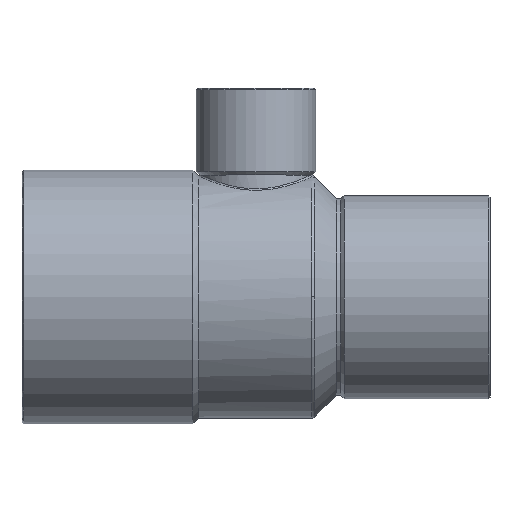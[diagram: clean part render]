
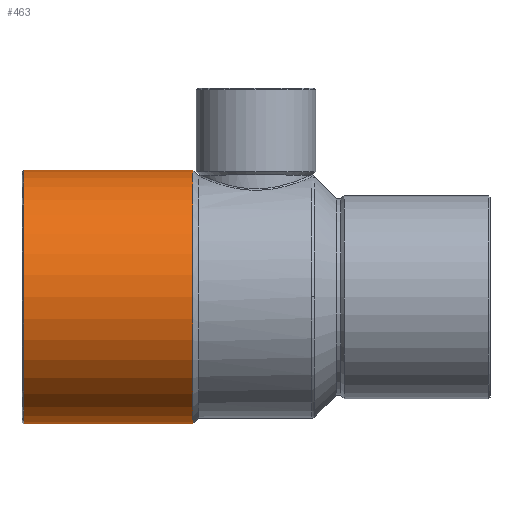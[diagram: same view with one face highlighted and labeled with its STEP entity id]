
A CAD part, top view. The second image highlights one B-rep face of the part: STEP entity #463.
In plain terms, the highlighted cylindrical face has radius 15.175 mm (diameter 30.35 mm), a partial arc.
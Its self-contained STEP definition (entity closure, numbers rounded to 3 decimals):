
#378=CARTESIAN_POINT('',(-7.52,15.175,0.0));
#379=VERTEX_POINT('',#378);
#388=CARTESIAN_POINT('',(-7.52,-15.175,0.));
#389=VERTEX_POINT('',#388);
#390=CARTESIAN_POINT('',(-7.52,0.0,0.0));
#391=DIRECTION('',(1.0,0.0,0.0));
#392=DIRECTION('',(0.0,1.0,0.0));
#393=AXIS2_PLACEMENT_3D('',#390,#391,#392);
#394=CIRCLE('',#393,15.175);
#395=EDGE_CURVE('',#379,#389,#394,.T.);
#432=CARTESIAN_POINT('',(-17.747,0.0,0.0));
#433=DIRECTION('',(1.0,0.0,0.0));
#434=DIRECTION('',(0.0,1.0,0.0));
#435=AXIS2_PLACEMENT_3D('',#432,#433,#434);
#436=CYLINDRICAL_SURFACE('',#435,15.175);
#437=CARTESIAN_POINT('',(-27.774,15.175,0.));
#438=VERTEX_POINT('',#437);
#439=CARTESIAN_POINT('',(-27.774,15.175,0.));
#440=DIRECTION('',(1.0,0.0,0.0));
#441=VECTOR('',#440,20.254);
#442=LINE('',#439,#441);
#443=EDGE_CURVE('',#438,#379,#442,.T.);
#444=ORIENTED_EDGE('',*,*,#443,.F.);
#445=CARTESIAN_POINT('',(-27.774,-15.175,0.));
#446=VERTEX_POINT('',#445);
#447=CARTESIAN_POINT('',(-27.774,0.0,0.0));
#448=DIRECTION('',(-1.0,0.0,0.0));
#449=DIRECTION('',(0.0,-1.0,0.0));
#450=AXIS2_PLACEMENT_3D('',#447,#448,#449);
#451=CIRCLE('',#450,15.175);
#452=EDGE_CURVE('',#446,#438,#451,.T.);
#453=ORIENTED_EDGE('',*,*,#452,.F.);
#454=CARTESIAN_POINT('',(-7.52,-15.175,0.));
#455=DIRECTION('',(-1.0,0.0,0.0));
#456=VECTOR('',#455,20.254);
#457=LINE('',#454,#456);
#458=EDGE_CURVE('',#389,#446,#457,.T.);
#459=ORIENTED_EDGE('',*,*,#458,.F.);
#460=ORIENTED_EDGE('',*,*,#395,.F.);
#461=EDGE_LOOP('',(#444,#453,#459,#460));
#462=FACE_OUTER_BOUND('',#461,.T.);
#463=ADVANCED_FACE('',(#462),#436,.T.);
